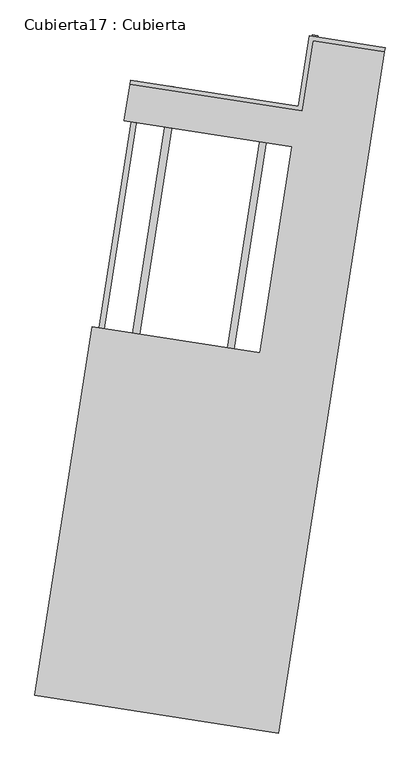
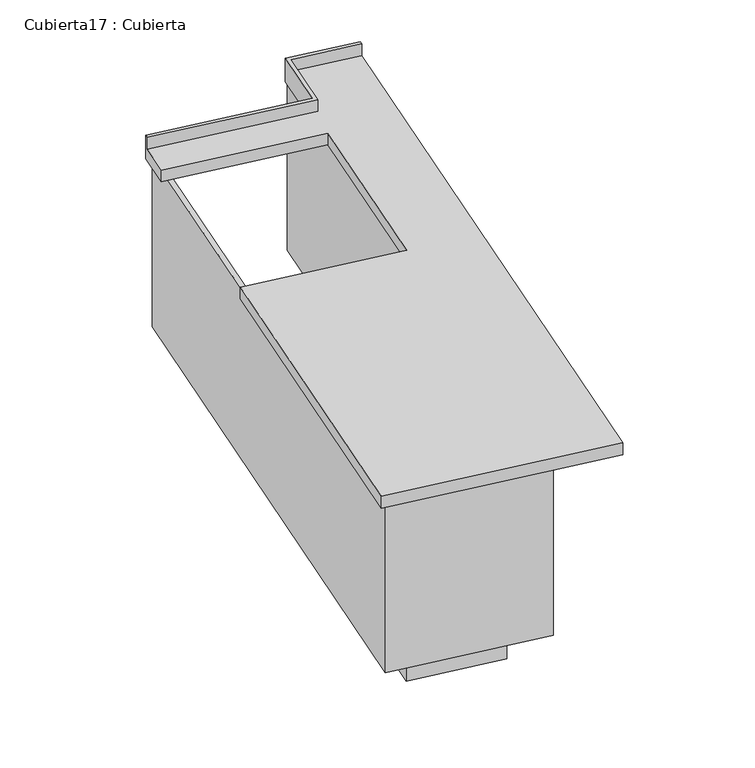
"""IFC4 building model written with IfcOpenShell, lengths in millimetres: furniture geometry, Cubierta17 : Cubierta."""

from ifc_helpers import new_model, si_unit, frame, origin, place, context, project, spatial, polyline, outline, extrude, faceted_brep, source, transform, mapped, element, save


def cubierta17_cubierta_ff7144c9(model_context):
    return source(origin(), model_context, "Body", "SolidModel", [
        extrude(outline(polyline([(-43936.5908069, -74222.4568055), (-44307.1167938, -74164.7031034), (-43980.6158614, -72069.9961695), (-43955.9141287, -72073.8464164), (-44278.5648142, -74143.8516176), (-43957.4422928, -74193.904826), (-43634.7916075, -72123.8996247), (-43610.0898748, -72127.7498715), (-43936.5908069, -74222.4568055)])), frame((0.0, 0.0, 6400.0), z_axis=(0.0, 0.0, 1.0), x_axis=(1.0, 0.0, 0.0)), (0.0, 0.0, 1.0), 150.0),
        extrude(outline(polyline([(-44449.8766916, -74268.9605328), (-44104.124525, -72050.7449353), (-44084.3631388, -72053.8251328), (-44427.035108, -74252.2793441), (-43849.0145663, -74342.3751197), (-43465.5299823, -71882.0825508), (-43445.7685961, -71885.1627483), (-43832.3333776, -74365.2167033), (-44449.8766916, -74268.9605328)])), frame((0.0, 0.0, 6550.0), z_axis=(0.0, 0.0, 1.0), x_axis=(1.0, 0.0, 0.0)), (0.0, 0.0, 1.0), 720.0),
        faceted_brep([(-44151.9277388, -72195.1050847, 7320.0), (-43539.3247674, -72290.5912065, 7320.0), (-43656.3722714, -73041.5238811, 7320.0), (-44268.9752429, -72946.0377594, 7320.0), (-44478.4286712, -74289.8120186, 7320.0), (-43589.1662974, -74428.4209044, 7320.0), (-43201.8314658, -71943.4265982, 7320.0), (-43463.6698401, -71902.6139795, 7320.0), (-43503.7124067, -72159.511996, 7320.0), (-44131.1364058, -72061.7157281, 7320.0), (-43589.1662974, -74428.4209044, 7270.0), (-44478.4286712, -74289.8120186, 7270.0), (-44268.9752429, -72946.0377594, 7270.0), (-43656.3722714, -73041.5238811, 7270.0), (-43539.3247674, -72290.5912065, 7270.0), (-44151.9277388, -72195.1050847, 7270.0), (-44128.8262577, -72046.8946885, 7270.0), (-43516.2232982, -72142.3808083, 7270.0), (-43476.1807316, -71885.4827917, 7270.0), (-43199.5213176, -71928.6055586, 7270.0), (-43199.5213176, -71928.6055585, 7370.0), (-43201.8314658, -71943.4265982, 7370.0), (-43476.1807316, -71885.4827917, 7370.0), (-43516.2232982, -72142.3808083, 7370.0), (-44128.8262577, -72046.8946885, 7370.0), (-44131.1364058, -72061.7157281, 7370.0), (-43503.7124067, -72159.511996, 7370.0), (-43463.6698401, -71902.6139795, 7370.0)], [[[0, 1, 2, 3, 4, 5, 6, 7, 8, 9]], [[10, 11, 12, 13, 14, 15, 16, 17, 18, 19]], [[20, 21, 6, 5, 10, 19]], [[21, 20, 22, 23, 24, 25, 26, 27]], [[6, 21, 27, 7]], [[20, 19, 18, 22]], [[25, 24, 16, 15, 0, 9]], [[4, 3, 12, 11]], [[5, 4, 11, 10]], [[1, 0, 15, 14]], [[2, 1, 14, 13]], [[3, 2, 13, 12]], [[23, 22, 18, 17]], [[27, 26, 8, 7]], [[16, 24, 23, 17]], [[26, 25, 9, 8]]]),
    ])


if __name__ == "__main__":
    model = new_model("IFC4")
    model_context = context("Model", 3, world=origin())
    ifc_project = project(units=[si_unit("LENGTHUNIT", "METRE", prefix="MILLI")], contexts=[model_context])
    site = spatial("IfcSite", under=ifc_project)
    building = spatial("IfcBuilding", under=site)
    placement = place(None, origin())
    cubierta17_cubierta_shape = cubierta17_cubierta_ff7144c9(model_context)
    element("IfcFurniture", 1, ObjectType="Cubierta17 : Cubierta", at=placement, inside=building, context=model_context, shape_type="MappedRepresentation", body=[
        mapped(cubierta17_cubierta_shape, transform((0.0, 0.0, 0.0), x_axis=(1.0, 0.0, 0.0), y_axis=(0.0, 1.0, 0.0), z_axis=(0.0, 0.0, 1.0))),
    ])
    save(model, "model.ifc")
